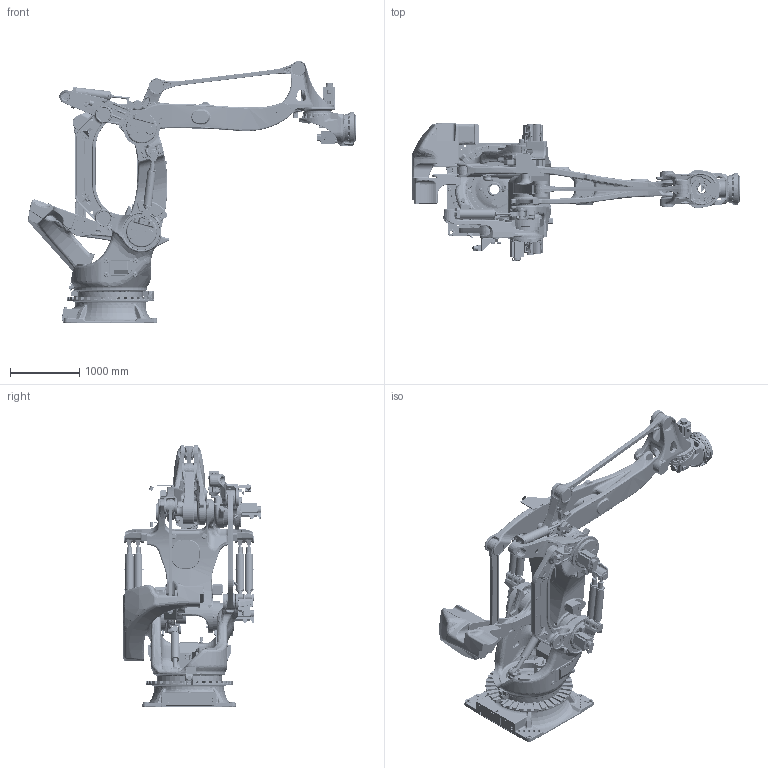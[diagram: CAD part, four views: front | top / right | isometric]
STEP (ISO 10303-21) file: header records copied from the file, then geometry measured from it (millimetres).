
FILE_DESCRIPTION(('CATIA V5 STEP Exchange','CAx-IF Rec.Pracs.--- Model Styling and Organization---1.2---2011-12-15','CAx-IF Rec.Pracs.--- Geometric and Assembly Validation Properties ---3.1---2011-10-19'),'2;1');
FILE_NAME('Z:\ROBOT\CATIA06\products\MC1000DL\Light_model\Step\000_MC1000DL-02.stp','2016-12-26T04:17:48+00:00',('none'),('none'),'Version 5-6 Release 2012','CATIA V5 STEP AP214','none');
FILE_SCHEMA(('AUTOMOTIVE_DESIGN { 1 0 10303 214 1 1 1 1 }'));
Products named in the file (20): 000_MC1000DL-02; 010_BASE_MC1000DL-02; 020_J1_Frame_MC1000DL-02; 050_J2_2ndArm_MC1000DL-02; 080_J3_1stArm_MC1000DL-02; 030_J3_Hinge_MC1000DL-02; 040_J3_Link_MC1000DL-02; 060_J3_FixedLink_MC1000DL-02; 070_FixedHinge_MC1000DL-02; 085_J4Hinge_MC1000DL-02; 090_J4Link_MC1000DL-02; 100_J4Wrist_MC1000DL-02; 110_J5Wrist_MC1000DL-02; 120_J6_EndEffector_MC1000DL-02; 130_J2Balancer_Pull_Case_MC1000DL-02; 135_J2Balancer_Pull_Rod_MC1000DL-02; 140_J3Balancer_Push_Case_MC1000DL-02; 145_J3Balancer_Push_Rod_MC1000DL-02; 150_J4Balancer_Pull_Case_MC1000DL-02; 155_J4Balancer_Pull_Rod_MC1000DL-02
Assembly tree (19 placements, depth 2):
  000_MC1000DL-02
    010_BASE_MC1000DL-02
    020_J1_Frame_MC1000DL-02
    050_J2_2ndArm_MC1000DL-02
    080_J3_1stArm_MC1000DL-02
    030_J3_Hinge_MC1000DL-02
    040_J3_Link_MC1000DL-02
    060_J3_FixedLink_MC1000DL-02
    070_FixedHinge_MC1000DL-02
    085_J4Hinge_MC1000DL-02
    090_J4Link_MC1000DL-02
    100_J4Wrist_MC1000DL-02
    110_J5Wrist_MC1000DL-02
    120_J6_EndEffector_MC1000DL-02
    130_J2Balancer_Pull_Case_MC1000DL-02
    135_J2Balancer_Pull_Rod_MC1000DL-02
    140_J3Balancer_Push_Case_MC1000DL-02
    145_J3Balancer_Push_Rod_MC1000DL-02
    150_J4Balancer_Pull_Case_MC1000DL-02
    155_J4Balancer_Pull_Rod_MC1000DL-02
Bounding box: 4741.14 x 1983.5 x 3791.03 mm (x, y, z)
Volume: 1265437862.8 mm3; surface area: 78913272.5 mm2
Topology: 367 solids, 418 shells, 26797 faces, 64173 edges, 38372 vertices
Faces by surface type: cylinder 6978, plane 6766, bspline 6316, torus 3717, cone 2754, sphere 219, extrusion 41, revolution 6
Entity records: 1276820 total; most frequent: CARTESIAN_POINT 736076, ORIENTED_EDGE 126490, DIRECTION 72805, EDGE_CURVE 63293, VERTEX_POINT 38372, AXIS2_PLACEMENT_3D 37316, EDGE_LOOP 28568, ADVANCED_FACE 26797
